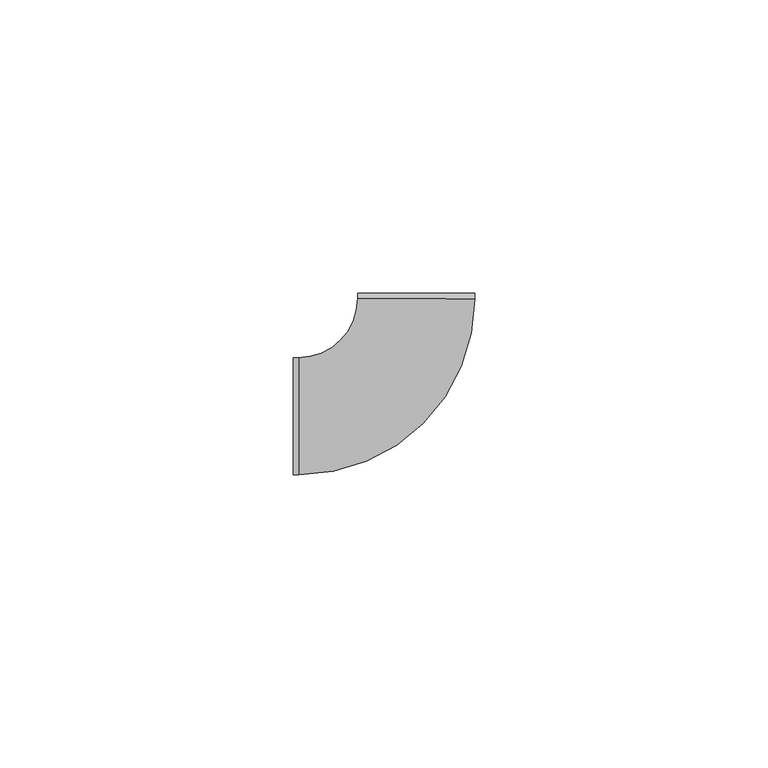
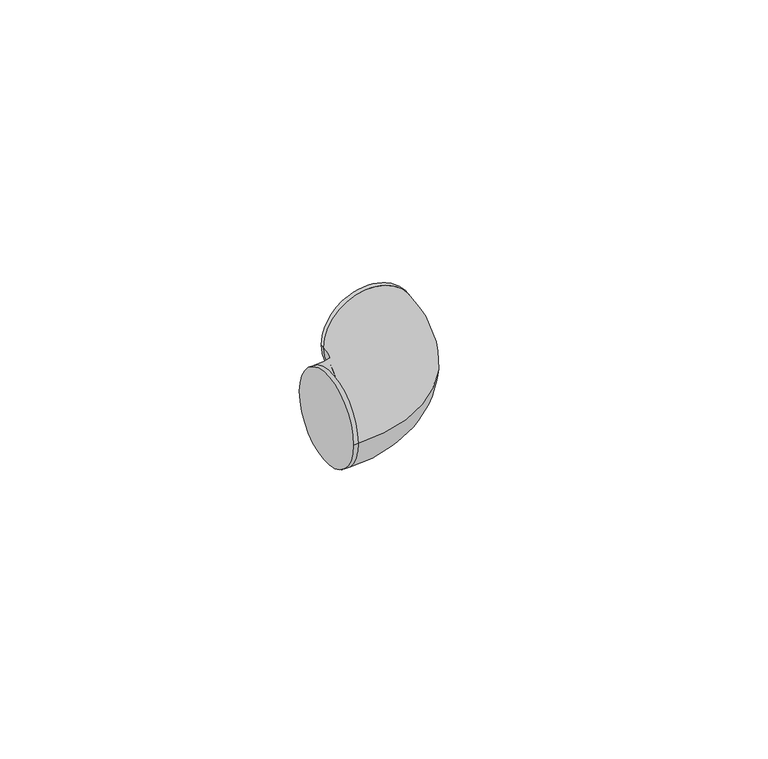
"""IFC4 building model written with IfcOpenShell, lengths in millimetres: cable carrier fitting geometry, ADSK_Поворот_Минимальный размер : Неспецифицируемый."""

from ifc_helpers import new_model, si_unit, point, frame, origin, place, context, project, spatial, circle_curve, ellipse_curve, trimmed, source, transform, mapped, element, save
from ifc_brep_helpers import plane_surface, cylinder_surface, revolved_surface, advanced_brep


def cable_carrier_fitting_f6a85e77(model_context):
    return source(origin(), model_context, "Body", "AdvancedBrep", [
        advanced_brep(
        [(-20.9976704, -10.0, 0.0), (-20.9976704, 10.0, 0.0), (-19.9976704, -10.0, 0.0), (-19.9976704, 10.0, 0.0), (-9.9976705, 19.9988351, 0.0), (10.0023294, 19.9965054, 0.0), (10.0024459, 20.9965054, 0.0), (-9.997554, 20.9988351, 0.0)],
        [
            (0, 1, circle_curve(frame((-20.9976704, 0.0, 0.0), z_axis=(-1.0, -4.92260399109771e-12, 0.0), x_axis=(-4.92260399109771e-12, 1.0, 0.0)), 10.0)),
            (1, 0, circle_curve(frame((-20.9976704, 0.0, 0.0), z_axis=(-1.0, -4.92260399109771e-12, 0.0), x_axis=(-4.92260399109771e-12, 1.0, 0.0)), 10.0)),
            (0, 2),
            (2, 3, circle_curve(frame((-19.9976704, 0.0, 0.0), z_axis=(-1.0, -4.92260399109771e-12, 0.0), x_axis=(-4.92260399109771e-12, 1.0, 0.0)), 10.0)),
            (3, 1),
            (3, 2, circle_curve(frame((-19.9976704, 0.0, 0.0), z_axis=(-1.0, -4.92260399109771e-12, 0.0), x_axis=(-4.92260399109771e-12, 1.0, 0.0)), 10.0)),
            (4, 3, circle_curve(frame((-19.9976704, 20.0, 0.0), z_axis=(0.0, 0.0, -1.0), x_axis=(0.0, -1.0, 0.0)), 10.0)),
            (2, 5, circle_curve(frame((-19.9976704, 20.0, 0.0), z_axis=(0.0, 0.0, 1.0), x_axis=(0.0, -1.0, 0.0)), 30.0)),
            (5, 4, circle_curve(frame((0.0023295, 19.9976703, 0.0), z_axis=(-0.00011648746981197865, -0.9999999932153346, 0.0), x_axis=(-0.9999999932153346, 0.00011648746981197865, 0.0)), 10.0)),
            (4, 5, circle_curve(frame((0.0023295, 19.9976703, 0.0), z_axis=(-0.00011648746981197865, -0.9999999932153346, 0.0), x_axis=(-0.9999999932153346, 0.00011648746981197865, 0.0)), 10.0)),
            (6, 7, circle_curve(frame((0.002446, 20.9976702, 0.0), z_axis=(0.00011648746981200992, 0.9999999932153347, 0.0), x_axis=(-0.9999999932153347, 0.00011648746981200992, 0.0)), 10.0)),
            (7, 6, circle_curve(frame((0.002446, 20.9976702, 0.0), z_axis=(0.00011648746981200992, 0.9999999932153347, 0.0), x_axis=(-0.9999999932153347, 0.00011648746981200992, 0.0)), 10.0)),
            (5, 6),
            (7, 4),
        ],
        [
            plane_surface(frame((-20.9976704, 0.0, 0.0), z_axis=(-1.0, -4.92260399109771e-12, 0.0), x_axis=(0.0, 0.0, 1.0))),
            cylinder_surface(frame((-20.9976704, 0.0, 0.0), z_axis=(-1.0, -4.92260399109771e-12, 0.0), x_axis=(-4.92260399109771e-12, 1.0, 0.0)), 10.0),
            revolved_surface(trimmed(ellipse_curve(frame((-19.9976704, 0.0, 0.0), z_axis=(-1.0, 0.0, 0.0), x_axis=(0.0, 1.0, 0.0)), 10.0, 10.0), [point((-19.9976704, -10.0, 0.0))], [point((-19.9976704, 10.0, 0.0))], True, "CARTESIAN"), (-19.9976704, 20.0, 0.0), (0.0, 0.0, 1.0)),
            revolved_surface(trimmed(ellipse_curve(frame((-19.9976704, 0.0, 0.0), z_axis=(-1.0, 0.0, 0.0), x_axis=(0.0, 1.0, 0.0)), 10.0, 10.0), [point((-19.9976704, 10.0, 0.0))], [point((-19.9976704, -10.0, 0.0))], True, "CARTESIAN"), (-19.9976704, 20.0, 0.0), (0.0, 0.0, 1.0)),
            plane_surface(frame((0.002446, 20.9976702, 0.0), z_axis=(0.0001164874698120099, 0.9999999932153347, 0.0), x_axis=(0.0, 0.0, 1.0))),
            cylinder_surface(frame((0.0023295, 19.9976703, 0.0), z_axis=(-0.00011648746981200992, -0.9999999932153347, 0.0), x_axis=(-0.9999999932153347, 0.00011648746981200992, 0.0)), 10.0),
        ],
        [
            (0, [[1, 2]]),
            (1, [[-1, 3, 4, 5]]),
            (1, [[-2, -5, 6, -3]]),
            (2, [[7, -4, 8, 9]]),
            (3, [[-8, -6, -7, 10]]),
            (4, [[11, 12]]),
            (5, [[-9, 13, -12, 14]]),
            (5, [[-10, -14, -11, -13]]),
        ],
    ),
    ])


if __name__ == "__main__":
    model = new_model("IFC4")
    model_context = context("Model", 3, world=origin())
    ifc_project = project(units=[si_unit("LENGTHUNIT", "METRE", prefix="MILLI")], contexts=[model_context])
    site = spatial("IfcSite", under=ifc_project)
    building = spatial("IfcBuilding", under=site)
    placement = place(None, origin())
    cable_carrier_fitting_shape = cable_carrier_fitting_f6a85e77(model_context)
    element("IfcCableCarrierFitting", 1, ObjectType="ADSK_Поворот_Минимальный размер : Неспецифицируемый", at=placement, inside=building, context=model_context, shape_type="MappedRepresentation", body=[
        mapped(cable_carrier_fitting_shape, transform((0.0, 0.0, 0.0), x_axis=(1.0, 0.0, 0.0), y_axis=(0.0, 1.0, 0.0), z_axis=(0.0, 0.0, 1.0))),
    ])
    save(model, "model.ifc")
